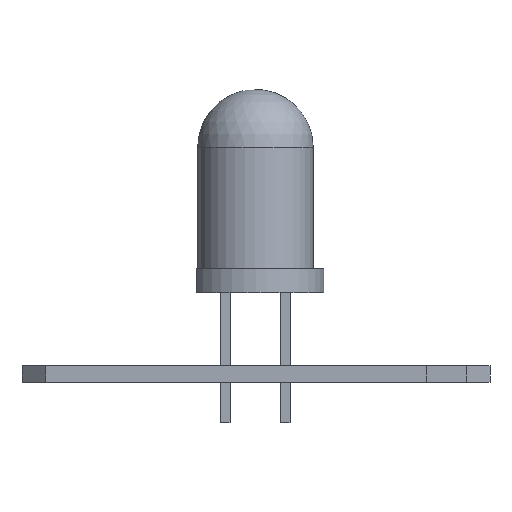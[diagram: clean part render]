
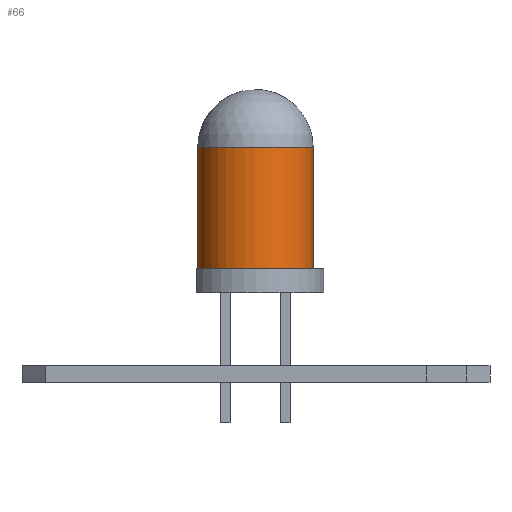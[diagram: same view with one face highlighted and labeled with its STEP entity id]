
A CAD part, front view. The second image highlights one B-rep face of the part: STEP entity #66.
In plain terms, the highlighted cylindrical face has radius 2.45 mm (diameter 4.9 mm), a full revolution.
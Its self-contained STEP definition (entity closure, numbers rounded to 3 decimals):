
#44 = VERTEX_POINT('',#45);
#45 = CARTESIAN_POINT('',(3.72,0.,9.15));
#55 = EDGE_CURVE('',#44,#44,#56,.T.);
#56 = CIRCLE('',#57,2.45);
#57 = AXIS2_PLACEMENT_3D('',#58,#59,#60);
#58 = CARTESIAN_POINT('',(1.27,0.,9.15));
#59 = DIRECTION('',(0.,0.,-1.));
#60 = DIRECTION('',(1.,0.,0.));
#66 = ADVANCED_FACE('',(#67),#86,.T.);
#67 = FACE_BOUND('',#68,.T.);
#68 = EDGE_LOOP('',(#69,#77,#78,#79));
#69 = ORIENTED_EDGE('',*,*,#70,.F.);
#70 = EDGE_CURVE('',#44,#71,#73,.T.);
#71 = VERTEX_POINT('',#72);
#72 = CARTESIAN_POINT('',(3.72,0.,4.));
#73 = LINE('',#74,#75);
#74 = CARTESIAN_POINT('',(3.72,0.,9.15));
#75 = VECTOR('',#76,1.);
#76 = DIRECTION('',(0.,0.,-1.));
#77 = ORIENTED_EDGE('',*,*,#55,.T.);
#78 = ORIENTED_EDGE('',*,*,#70,.T.);
#79 = ORIENTED_EDGE('',*,*,#80,.F.);
#80 = EDGE_CURVE('',#71,#71,#81,.T.);
#81 = CIRCLE('',#82,2.45);
#82 = AXIS2_PLACEMENT_3D('',#83,#84,#85);
#83 = CARTESIAN_POINT('',(1.27,0.,4.));
#84 = DIRECTION('',(0.,0.,-1.));
#85 = DIRECTION('',(1.,0.,0.));
#86 = CYLINDRICAL_SURFACE('',#87,2.45);
#87 = AXIS2_PLACEMENT_3D('',#88,#89,#90);
#88 = CARTESIAN_POINT('',(1.27,0.,9.15));
#89 = DIRECTION('',(0.,0.,-1.));
#90 = DIRECTION('',(1.,0.,0.));
